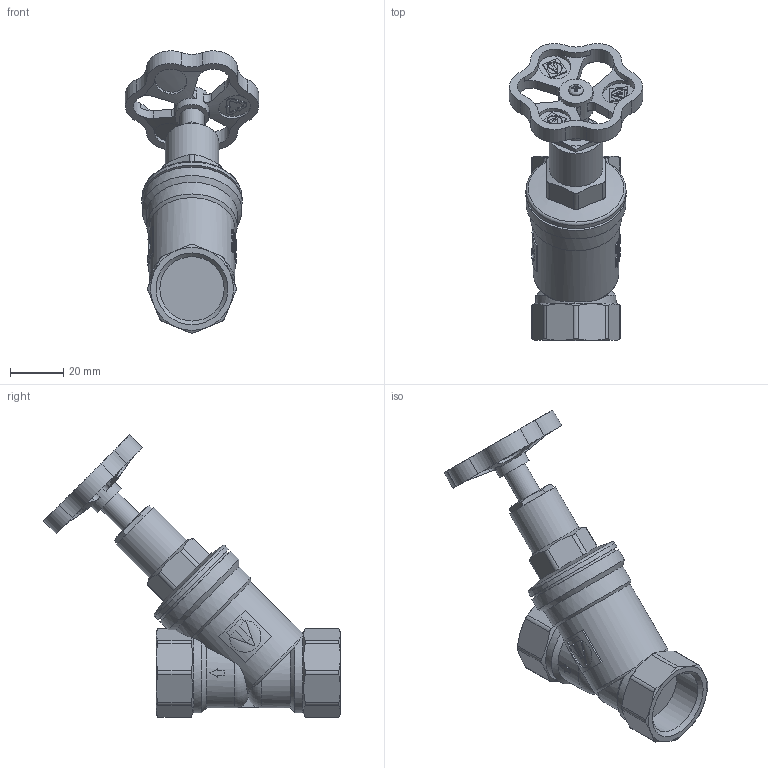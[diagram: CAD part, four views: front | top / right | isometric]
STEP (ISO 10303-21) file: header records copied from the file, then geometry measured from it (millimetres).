
FILE_DESCRIPTION(('STEP AP203'), '1');
FILE_NAME('VT.052.N.05', '', ('UNSPECIFIED'), ('UNSPECIFIED'), 'C3D Converter', 'C3D Toolkit', '');
FILE_SCHEMA(('CONFIG_CONTROL_DESIGN'));
Length unit declared in the file: millimetre
Products named in the file (1): ВР.491212.002.000 СБ
Bounding box: 50 x 111.2 x 105.82 mm (x, y, z)
Volume: 82808.6 mm3; surface area: 21773.1 mm2
Topology: 1 solids, 1 shells, 537 faces, 1464 edges, 966 vertices
Faces by surface type: plane 229, extrusion 129, cylinder 113, cone 57, torus 8, bspline 1
Full cylindrical faces by diameter (mm): 9 x1, 9.3 x1, 12 x6, 12.8 x1, 20 x1, 24.118 x2, 30 x1, 35 x1, 35.5 x1, 37.5 x2
Entity records: 31067 total; most frequent: CARTESIAN_POINT 19019, ORIENTED_EDGE 2838, DIRECTION 1822, EDGE_CURVE 1419, VERTEX_POINT 957, B_SPLINE_CURVE_WITH_KNOTS 783, VECTOR 640, EDGE_LOOP 598
